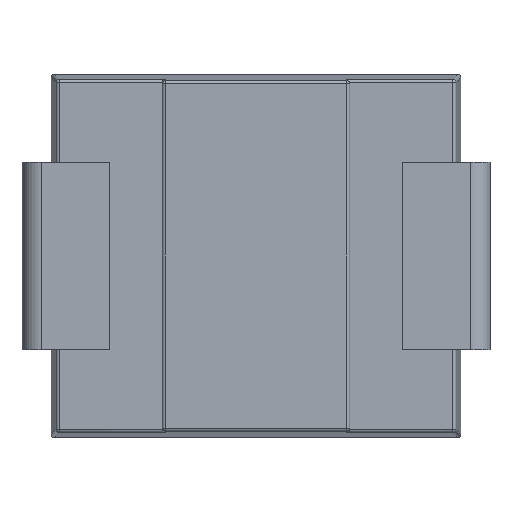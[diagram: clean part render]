
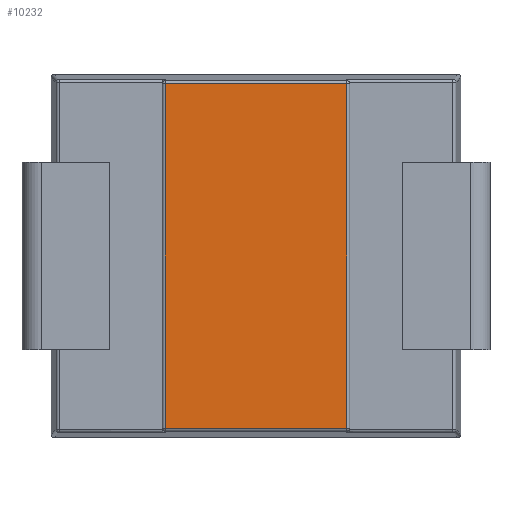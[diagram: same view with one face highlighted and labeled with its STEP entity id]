
A CAD part, front view. The second image highlights one B-rep face of the part: STEP entity #10232.
In plain terms, the highlighted planar face has unit normal (0, -1, 0).
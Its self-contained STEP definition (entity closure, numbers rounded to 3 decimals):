
#962 = EDGE_CURVE ( 'NONE', #2132, #9953, #11577, .T. ) ;
#1198 = CARTESIAN_POINT ( 'NONE',  ( 1.55, 0.07, -2.947 ) ) ;
#1298 = CARTESIAN_POINT ( 'NONE',  ( -1.55, 0.07, -2.947 ) ) ;
#1668 = LINE ( 'NONE', #11336, #9992 ) ;
#1696 = PLANE ( 'NONE',  #8520 ) ;
#2132 = VERTEX_POINT ( 'NONE', #1298 ) ;
#2291 = ORIENTED_EDGE ( 'NONE', *, *, #3989, .T. ) ;
#3156 = CARTESIAN_POINT ( 'NONE',  ( 1.55, 0.07, 2.947 ) ) ;
#3248 = VECTOR ( 'NONE', #8767, 1000. ) ;
#3931 = VECTOR ( 'NONE', #12148, 1000. ) ;
#3989 = EDGE_CURVE ( 'NONE', #12102, #2132, #12267, .T. ) ;
#4049 = DIRECTION ( 'NONE',  ( -1., 0., 0. ) ) ;
#4811 = CARTESIAN_POINT ( 'NONE',  ( -1.55, 0.07, -2.992 ) ) ;
#4914 = CARTESIAN_POINT ( 'NONE',  ( 0., 0.07, 0. ) ) ;
#5714 = EDGE_CURVE ( 'NONE', #8410, #12102, #1668, .T. ) ;
#5981 = DIRECTION ( 'NONE',  ( 0., 0., -1. ) ) ;
#6463 = ORIENTED_EDGE ( 'NONE', *, *, #962, .T. ) ;
#6939 = CARTESIAN_POINT ( 'NONE',  ( -1.55, 0.07, 2.947 ) ) ;
#7429 = EDGE_LOOP ( 'NONE', ( #2291, #6463, #7618, #11942 ) ) ;
#7618 = ORIENTED_EDGE ( 'NONE', *, *, #9092, .T. ) ;
#7761 = CARTESIAN_POINT ( 'NONE',  ( 0., 0.07, -2.947 ) ) ;
#7911 = LINE ( 'NONE', #9586, #13466 ) ;
#8410 = VERTEX_POINT ( 'NONE', #3156 ) ;
#8520 = AXIS2_PLACEMENT_3D ( 'NONE', #4914, #12244, #5981 ) ;
#8767 = DIRECTION ( 'NONE',  ( 1., 0., 0. ) ) ;
#8905 = FACE_OUTER_BOUND ( 'NONE', #7429, .T. ) ;
#9092 = EDGE_CURVE ( 'NONE', #9953, #8410, #7911, .T. ) ;
#9586 = CARTESIAN_POINT ( 'NONE',  ( 1.55, 0.07, 2.992 ) ) ;
#9953 = VERTEX_POINT ( 'NONE', #1198 ) ;
#9992 = VECTOR ( 'NONE', #4049, 1000. ) ;
#10232 = ADVANCED_FACE ( 'NONE', ( #8905 ), #1696, .T. ) ;
#10606 = DIRECTION ( 'NONE',  ( 0., 0., 1. ) ) ;
#11336 = CARTESIAN_POINT ( 'NONE',  ( 0., 0.07, 2.947 ) ) ;
#11577 = LINE ( 'NONE', #7761, #3248 ) ;
#11942 = ORIENTED_EDGE ( 'NONE', *, *, #5714, .T. ) ;
#12102 = VERTEX_POINT ( 'NONE', #6939 ) ;
#12148 = DIRECTION ( 'NONE',  ( 0., 0., -1. ) ) ;
#12244 = DIRECTION ( 'NONE',  ( 0., -1., 0. ) ) ;
#12267 = LINE ( 'NONE', #4811, #3931 ) ;
#13466 = VECTOR ( 'NONE', #10606, 1000. ) ;
